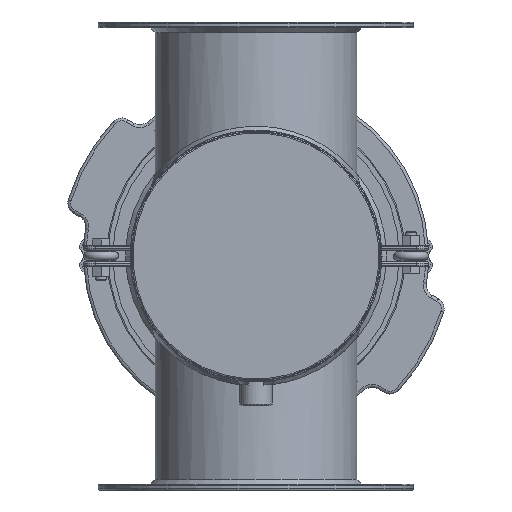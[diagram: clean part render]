
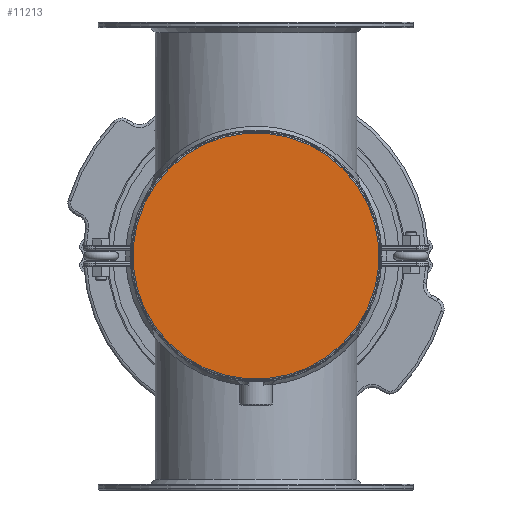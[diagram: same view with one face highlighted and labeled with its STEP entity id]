
A CAD part, front view. The second image highlights one B-rep face of the part: STEP entity #11213.
In plain terms, the highlighted planar face has unit normal (0, -1, 0).
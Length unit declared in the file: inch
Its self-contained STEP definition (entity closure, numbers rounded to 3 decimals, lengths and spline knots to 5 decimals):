
#1119=CIRCLE('',#12052,5.2625);
#2389=FACE_OUTER_BOUND('',#3167,.T.);
#3167=EDGE_LOOP('',(#8233));
#5356=VERTEX_POINT('',#20257);
#6418=EDGE_CURVE('',#5356,#5356,#1119,.T.);
#8233=ORIENTED_EDGE('',*,*,#6418,.F.);
#10939=PLANE('',#12055);
#11213=ADVANCED_FACE('',(#2389),#10939,.F.);
#12052=AXIS2_PLACEMENT_3D('',#20258,#13978,#13979);
#12055=AXIS2_PLACEMENT_3D('',#20262,#13984,#13985);
#13978=DIRECTION('center_axis',(0.,1.,0.));
#13979=DIRECTION('ref_axis',(1.,0.,0.));
#13984=DIRECTION('center_axis',(0.,1.,0.));
#13985=DIRECTION('ref_axis',(0.,0.,1.));
#20257=CARTESIAN_POINT('',(-5.2625,0.,0.));
#20258=CARTESIAN_POINT('Origin',(0.,0.,0.));
#20262=CARTESIAN_POINT('Origin',(0.,0.,0.));
